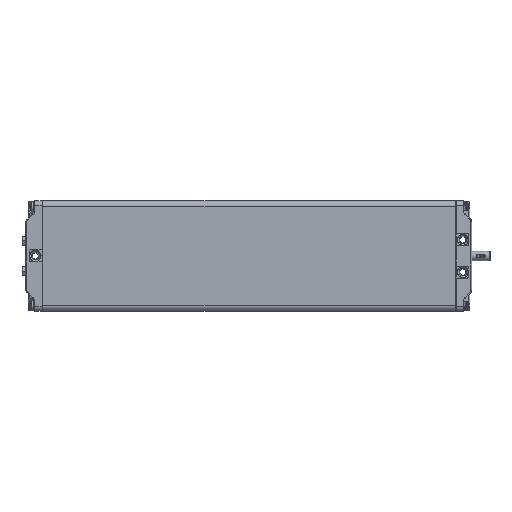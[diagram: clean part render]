
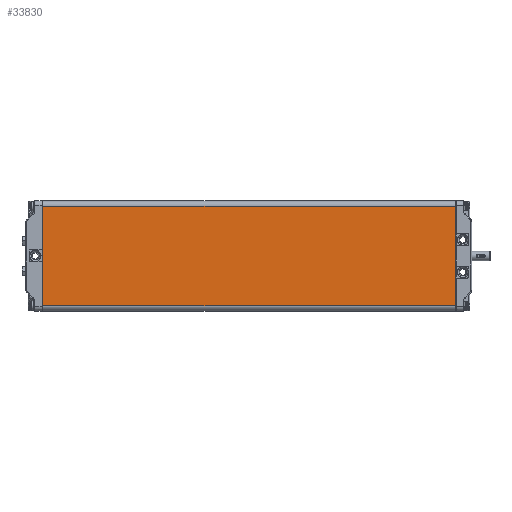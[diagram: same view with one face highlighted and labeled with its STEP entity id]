
A CAD part, top view. The second image highlights one B-rep face of the part: STEP entity #33830.
In plain terms, the highlighted planar face has unit normal (0, 0, 1).
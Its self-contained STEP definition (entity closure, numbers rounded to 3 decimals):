
#3518=LINE('',#72180,#4803);
#3519=LINE('',#72183,#4804);
#3520=LINE('',#72185,#4805);
#3521=LINE('',#72187,#4806);
#4803=VECTOR('',#41042,1000.);
#4804=VECTOR('',#41043,1000.);
#4805=VECTOR('',#41044,1000.);
#4806=VECTOR('',#41045,1000.);
#10100=ORIENTED_EDGE('',*,*,#16165,.T.);
#10101=ORIENTED_EDGE('',*,*,#16166,.T.);
#10102=ORIENTED_EDGE('',*,*,#16167,.T.);
#10103=ORIENTED_EDGE('',*,*,#16168,.T.);
#16165=EDGE_CURVE('',#19423,#19424,#3518,.F.);
#16166=EDGE_CURVE('',#19424,#19425,#3519,.T.);
#16167=EDGE_CURVE('',#19425,#19426,#3520,.T.);
#16168=EDGE_CURVE('',#19426,#19423,#3521,.F.);
#19423=VERTEX_POINT('',#72181);
#19424=VERTEX_POINT('',#72182);
#19425=VERTEX_POINT('',#72184);
#19426=VERTEX_POINT('',#72186);
#22909=EDGE_LOOP('',(#10100,#10101,#10102,#10103));
#24889=FACE_BOUND('',#22909,.T.);
#26023=PLANE('',#36088);
#33830=ADVANCED_FACE('',(#24889),#26023,.T.);
#36088=AXIS2_PLACEMENT_3D('',#72179,#41040,#41041);
#41040=DIRECTION('',(0.,0.,1.));
#41041=DIRECTION('',(1.,0.,0.));
#41042=DIRECTION('',(0.,-1.,0.));
#41043=DIRECTION('',(-1.,0.,0.));
#41044=DIRECTION('',(0.,-1.,0.));
#41045=DIRECTION('',(-1.,0.,0.));
#72179=CARTESIAN_POINT('',(60.,450.5,30.));
#72180=CARTESIAN_POINT('',(54.,450.5,30.));
#72181=CARTESIAN_POINT('',(54.,0.5,30.));
#72182=CARTESIAN_POINT('',(54.,450.,30.));
#72183=CARTESIAN_POINT('',(60.,450.,30.));
#72184=CARTESIAN_POINT('',(-54.,450.,30.));
#72185=CARTESIAN_POINT('',(-54.,450.5,30.));
#72186=CARTESIAN_POINT('',(-54.,0.5,30.));
#72187=CARTESIAN_POINT('',(54.,0.5,30.));
